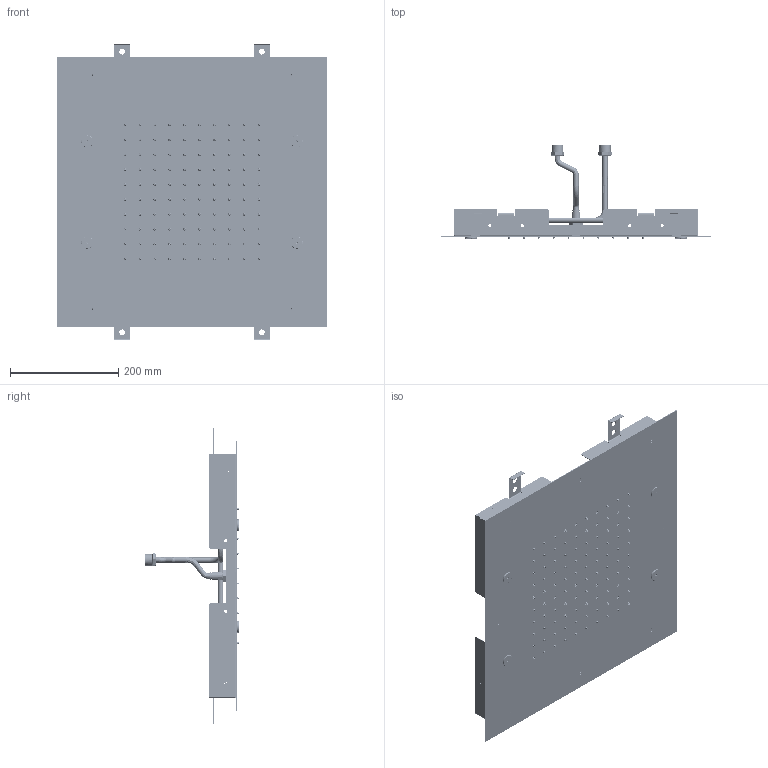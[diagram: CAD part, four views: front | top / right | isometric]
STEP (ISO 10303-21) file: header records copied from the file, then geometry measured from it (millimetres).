
FILE_DESCRIPTION (( 'STEP AP203' ), '1' );
FILE_NAME ('PIA14G.STEP', '2025-02-07T14:51:02', ( '' ), ( '' ), 'SwSTEP 2.0', 'SolidWorks 2024', '' );
FILE_SCHEMA (( 'CONFIG_CONTROL_DESIGN' ));
Length unit declared in the file: millimetre
Products named in the file (23): VITS_M6x16_1; PIAS500_2; PIA14G; RA_003_1; M_1182_1; TUBO-009; PORTANUTZER_1; TUBO-011; SOFFIONE_1; TUTUBO-8_1; TUBO-012; NEBULIZZATORE_1; ATTACCO DIRETTO 1-8_Ï10; ATT MEZZO POLL_1; NUTZER M6_1; TUTUBO-7_1; STRISCIA SOFFIONE_1; TUBO-010; TELAIO-WELL-005; SOFFIONE SUPERIORE-NEW_1; FAZZOLETTO_1; Tettarella_1
Assembly tree (145 placements, depth 3):
  PIA14G
    PIAS500_2
    TELAIO-WELL-005
    SOFFIONE_1
      M_1182_1
      Tettarella_1  x100
      RA_003_1
      SOFFIONE SUPERIORE-NEW_1
    STRISCIA SOFFIONE_1  x2
    FAZZOLETTO_1  x4
    NEBULIZZATORE_1  x4
    TUBO-009  x2
    TUBO-010
    ATT MEZZO POLL_1  x3
    ATTACCO DIRETTO 1-8_Ï10
    TUTUBO-7_1
    TUTUBO-8_1
    TUBO-011
    TUBO-012
    PORTANUTZER_1  x8
      PORTANUTZER_1
      NUTZER M6_1
    VITS_M6x16_1  x8
Bounding box: 500 x 173.78 x 548 mm (x, y, z)
Volume: 821078.7 mm3; surface area: 1308356.1 mm2
Topology: 150 solids, 150 shells, 5978 faces, 13140 edges, 7775 vertices
Faces by surface type: bspline 2521, cylinder 1893, plane 1176, cone 388
Entity records: 66697 total; most frequent: CARTESIAN_POINT 25450, DIRECTION 7723, ORIENTED_EDGE 7126, EDGE_CURVE 3563, AXIS2_PLACEMENT_3D 2940, VERTEX_POINT 2317, EDGE_LOOP 1886, VECTOR 1843
